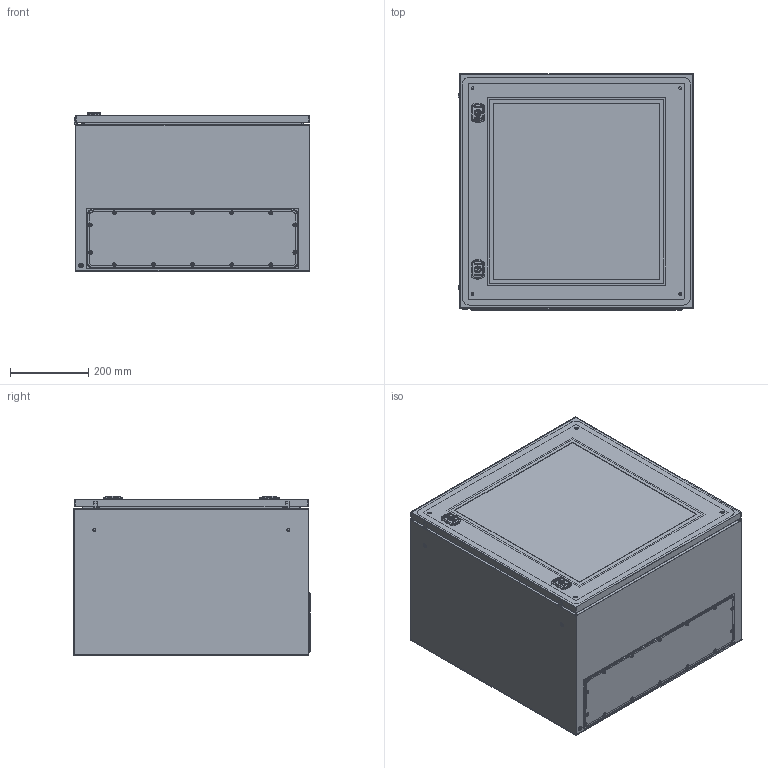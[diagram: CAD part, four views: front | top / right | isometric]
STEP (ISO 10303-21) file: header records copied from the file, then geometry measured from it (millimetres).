
FILE_DESCRIPTION(('Open CASCADE Model'),'2;1');
FILE_NAME('Open CASCADE Shape Model','2025-05-23T14:12:29',('Author'),( 'Open CASCADE'),'Open CASCADE STEP processor 7.8','Open CASCADE 7.8' ,'Unknown');
FILE_SCHEMA(('AUTOMOTIVE_DESIGN { 1 0 10303 214 1 1 1 1 }'));
Length unit declared in the file: millimetre
Products named in the file (39): Compound1; Compound2; Compound3; Compound4; Solid1; Solid2; Solid3; Compound5; Solid4; Solid5; Solid6; Solid7; Solid8; Solid9; Compound6; Solid10; Solid11; Solid12; Solid13; Compound7; Compound8; Solid14; Solid15; Solid16; Compound9; Solid17; Solid18; Solid19; Solid20; Solid21; Solid22; Solid23; Solid24; Solid25; Solid26; Solid27; Solid28; Solid29; Solid30
Assembly tree (71 placements, depth 5):
  Compound1
    Compound2
      Compound3
        Compound4
          Solid1
          Solid2  x4
          Solid3  x4
        Compound5  x2
          Solid4
          Solid5
        Solid6  x2
        Solid7  x2
        Solid8  x2
        Solid9  x4
      Compound6
        Solid10
        Solid11
      Solid12  x2
      Solid13  x4
      Compound7
        Compound8
          Solid14
          Solid15  x2
          Solid3  x4
        Solid16
        Compound9  x2
          Solid17
          Solid18
          Solid19
          Solid20
          Solid21
          Solid22
          Solid23
        Solid24
        Solid25
        Solid26  x2
      Solid27  x2
      Solid28  x4
      Solid29
    Solid30  x5
Bounding box: 602.8 x 603.5 x 407.67 mm (x, y, z)
Volume: 4449084.4 mm3; surface area: 4523347.1 mm2
Topology: 71 solids, 71 shells, 4538 faces, 11531 edges, 7345 vertices
Faces by surface type: plane 2176, cylinder 1262, bspline 426, torus 346, cone 260, sphere 60, revolution 8
Entity records: 98794 total; most frequent: CARTESIAN_POINT 30368, ORIENTED_EDGE 14384, DIRECTION 13549, EDGE_CURVE 7192, VERTEX_POINT 4652, LINE 4621, VECTOR 4621, AXIS2_PLACEMENT_3D 4462
